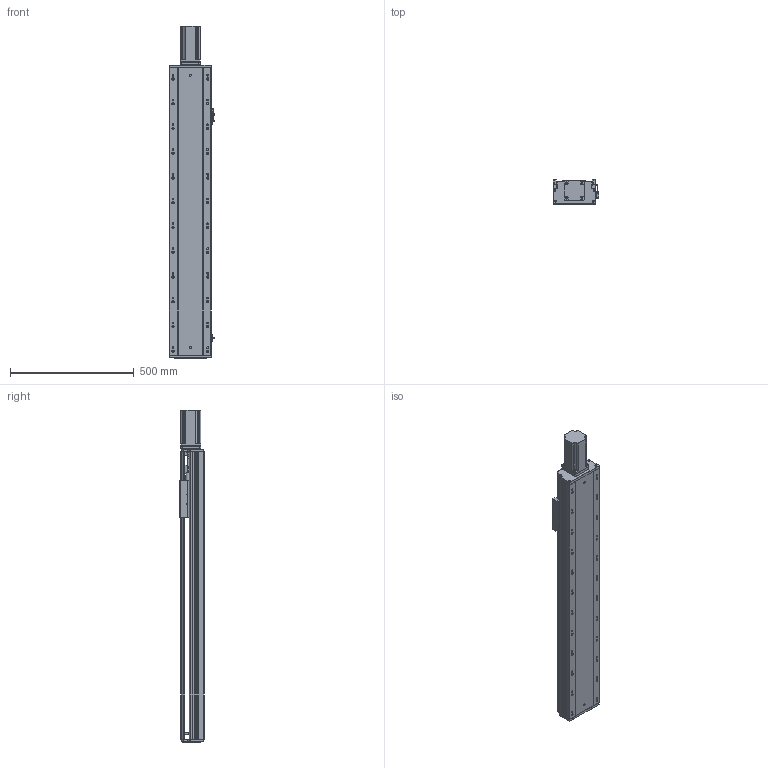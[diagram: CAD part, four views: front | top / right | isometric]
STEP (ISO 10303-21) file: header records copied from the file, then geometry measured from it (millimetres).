
FILE_DESCRIPTION (( 'STEP AP203' ), '1' );
FILE_NAME ('RY170-L2510-300-MK(FK17).SLDASM_850.step', '2022-08-23T02:00:39', ( '' ), ( '' ), 'SwSTEP 2.0', 'SolidWorks 2016', '' );
FILE_SCHEMA (( 'CONFIG_CONTROL_DESIGN' ));
Length unit declared in the file: millimetre
Products named in the file (15): 侂狟750W萇儂ㄗ80遺ㄘ; RY170-300倰第裔啣-MK_850; RY170ヶ醱裔啣; 15; RY170臏賑輸25佪裝蹟譫; RY170綴裔啣; RY170-300倰第菁釱-MK_850; 滅袉蝶18-10; RY170外置感应片(200共用）; RY170-L2510-300-MK(FK17).SLDASM_850; 侂狟400W侜督萇儂; 750W萇儂梓袧蛌諉啣; 覜茼ん672; RY170电机端支撑座(25丝杆7004轴承)-压铸(FK17); 滅袉蝶18-28
Assembly tree (16 placements, depth 3):
  RY170-L2510-300-MK(FK17).SLDASM_850
    RY170-300倰第菁釱-MK_850
    RY170-300倰第裔啣-MK_850
    RY170臏賑輸25佪裝蹟譫
    侂狟400W侜督萇儂
      15
    RY170綴裔啣
    RY170电机端支撑座(25丝杆7004轴承)-压铸(FK17)
    覜茼ん672  x3
    RY170外置感应片(200共用）
    RY170ヶ醱裔啣
    滅袉蝶18-28
    滅袉蝶18-10
    侂狟750W萇儂ㄗ80遺ㄘ
    750W萇儂梓袧蛌諉啣
Bounding box: 183.7 x 97 x 1341 mm (x, y, z)
Volume: 7097238.6 mm3; surface area: 2084271.4 mm2
Topology: 15 solids, 15 shells, 2285 faces, 6675 edges, 4270 vertices
Faces by surface type: plane 1014, cylinder 992, cone 243, bspline 36
Entity records: 75767 total; most frequent: CARTESIAN_POINT 18236, ORIENTED_EDGE 12058, DIRECTION 11431, EDGE_CURVE 6029, AXIS2_PLACEMENT_3D 3994, VERTEX_POINT 3950, LINE 3443, VECTOR 3443
